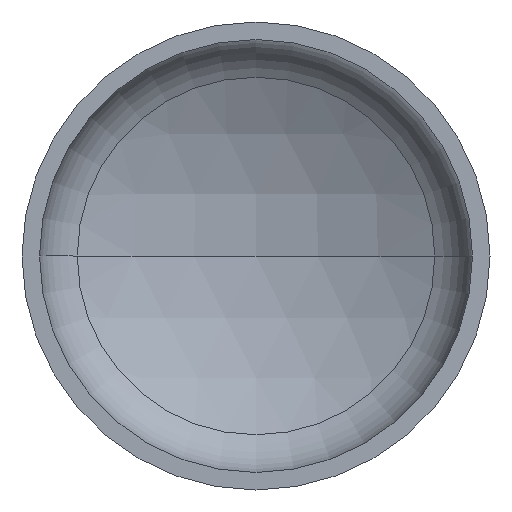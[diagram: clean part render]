
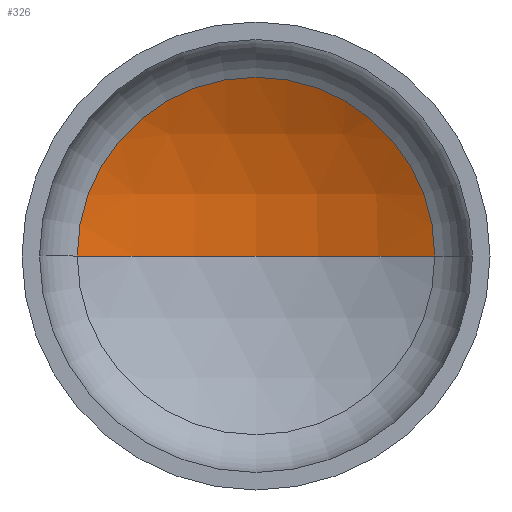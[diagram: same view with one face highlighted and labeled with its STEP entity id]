
A CAD part, front view. The second image highlights one B-rep face of the part: STEP entity #326.
In plain terms, the highlighted spherical face has radius 1920 mm.
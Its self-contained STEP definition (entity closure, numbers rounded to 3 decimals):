
#1 = ORIENTED_EDGE ( 'NONE', *, *, #345, .T. ) ;
#18 = EDGE_LOOP ( 'NONE', ( #38, #1, #106 ) ) ;
#22 = AXIS2_PLACEMENT_3D ( 'NONE', #274, #186, #364 ) ;
#25 = AXIS2_PLACEMENT_3D ( 'NONE', #183, #340, #289 ) ;
#35 = AXIS2_PLACEMENT_3D ( 'NONE', #43, #194, #379 ) ;
#37 = VERTEX_POINT ( 'NONE', #255 ) ;
#38 = ORIENTED_EDGE ( 'NONE', *, *, #378, .F. ) ;
#43 = CARTESIAN_POINT ( 'NONE',  ( 0., -1261.947, 0. ) ) ;
#88 = VERTEX_POINT ( 'NONE', #358 ) ;
#106 = ORIENTED_EDGE ( 'NONE', *, *, #341, .T. ) ;
#131 = VERTEX_POINT ( 'NONE', #339 ) ;
#168 = FACE_OUTER_BOUND ( 'NONE', #18, .T. ) ;
#183 = CARTESIAN_POINT ( 'NONE',  ( 0., 425.11, 0. ) ) ;
#186 = DIRECTION ( 'NONE',  ( 0., 0., -1. ) ) ;
#194 = DIRECTION ( 'NONE',  ( 0., 0., -1. ) ) ;
#230 = CARTESIAN_POINT ( 'NONE',  ( 0., -1261.947, 0. ) ) ;
#255 = CARTESIAN_POINT ( 'NONE',  ( 916.645, 425.11, 0. ) ) ;
#270 = CIRCLE ( 'NONE', #275, 1920. ) ;
#274 = CARTESIAN_POINT ( 'NONE',  ( 0., -1261.947, 0. ) ) ;
#275 = AXIS2_PLACEMENT_3D ( 'NONE', #230, #386, #387 ) ;
#289 = DIRECTION ( 'NONE',  ( 1., 0., 0. ) ) ;
#326 = ADVANCED_FACE ( 'NONE', ( #168 ), #359, .F. ) ;
#339 = CARTESIAN_POINT ( 'NONE',  ( 0., 658.053, 0. ) ) ;
#340 = DIRECTION ( 'NONE',  ( 0., -1., 0. ) ) ;
#341 = EDGE_CURVE ( 'NONE', #37, #88, #353, .T. ) ;
#345 = EDGE_CURVE ( 'NONE', #131, #37, #400, .T. ) ;
#353 = CIRCLE ( 'NONE', #25, 916.645 ) ;
#358 = CARTESIAN_POINT ( 'NONE',  ( -916.645, 425.11, 0. ) ) ;
#359 = SPHERICAL_SURFACE ( 'NONE', #35, 1920. ) ;
#364 = DIRECTION ( 'NONE',  ( -1., 0., 0. ) ) ;
#378 = EDGE_CURVE ( 'NONE', #131, #88, #270, .T. ) ;
#379 = DIRECTION ( 'NONE',  ( -1., 0., 0. ) ) ;
#386 = DIRECTION ( 'NONE',  ( 0., 0., 1. ) ) ;
#387 = DIRECTION ( 'NONE',  ( 1., 0., 0. ) ) ;
#400 = CIRCLE ( 'NONE', #22, 1920. ) ;
